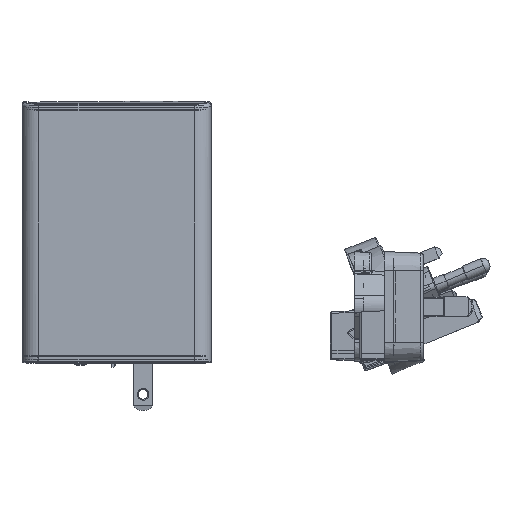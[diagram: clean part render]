
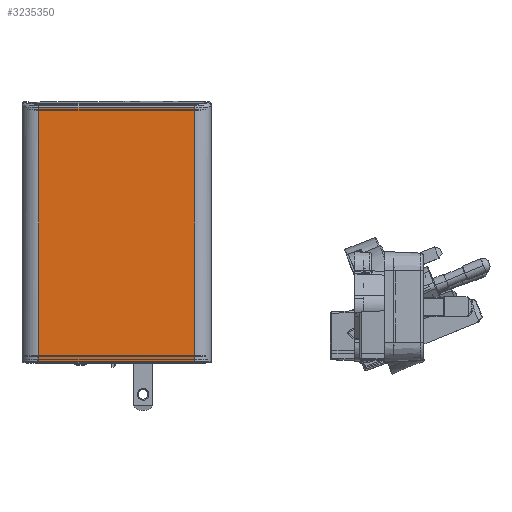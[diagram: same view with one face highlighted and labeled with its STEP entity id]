
A CAD part, top view. The second image highlights one B-rep face of the part: STEP entity #3235350.
In plain terms, the highlighted planar face has unit normal (0, 0, 1).
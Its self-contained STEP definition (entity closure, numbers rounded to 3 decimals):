
#3230690=CARTESIAN_POINT('',(26.285,153.683,
21.101));
#3230700=VERTEX_POINT('',#3230690);
#3234860=CARTESIAN_POINT('',(-24.715,153.683,
21.101));
#3234870=DIRECTION('',(1.,0.,0.));
#3234880=VECTOR('',#3234870,1.);
#3234890=LINE('',#3234860,#3234880);
#3234900=CARTESIAN_POINT('',(-24.715,153.683,
21.101));
#3234910=VERTEX_POINT('',#3234900);
#3234920=EDGE_CURVE('',#3234910,#3230700,#3234890,.T.);
#3235050=CARTESIAN_POINT('',(0.785,114.,21.101));
#3235060=DIRECTION('',(0.,0.,-1.));
#3235070=DIRECTION('',(0.,1.,0.));
#3235080=AXIS2_PLACEMENT_3D('',#3235050,#3235060,#3235070);
#3235090=PLANE('',#3235080);
#3235100=CARTESIAN_POINT('',(-24.715,70.55,21.101));
#3235110=DIRECTION('',(0.,1.,0.));
#3235120=VECTOR('',#3235110,1.);
#3235130=LINE('',#3235100,#3235120);
#3235140=CARTESIAN_POINT('',(-24.715,70.55,21.101));
#3235150=VERTEX_POINT('',#3235140);
#3235160=EDGE_CURVE('',#3235150,#3234910,#3235130,.T.);
#3235170=ORIENTED_EDGE('',*,*,#3235160,.F.);
#3235180=ORIENTED_EDGE('',*,*,#3234920,.F.);
#3235190=CARTESIAN_POINT('',(26.285,153.683,
21.101));
#3235200=DIRECTION('',(0.,-1.,0.));
#3235210=VECTOR('',#3235200,1.);
#3235220=LINE('',#3235190,#3235210);
#3235230=CARTESIAN_POINT('',(26.285,70.55,21.101));
#3235240=VERTEX_POINT('',#3235230);
#3235250=EDGE_CURVE('',#3230700,#3235240,#3235220,.T.);
#3235260=ORIENTED_EDGE('',*,*,#3235250,.F.);
#3235270=CARTESIAN_POINT('',(26.285,70.55,21.101));
#3235280=DIRECTION('',(-1.,0.,0.));
#3235290=VECTOR('',#3235280,1.);
#3235300=LINE('',#3235270,#3235290);
#3235310=EDGE_CURVE('',#3235240,#3235150,#3235300,.T.);
#3235320=ORIENTED_EDGE('',*,*,#3235310,.F.);
#3235330=EDGE_LOOP('',(#3235320,#3235260,#3235180,#3235170));
#3235340=FACE_OUTER_BOUND('',#3235330,.T.);
#3235350=ADVANCED_FACE('',(#3235340),#3235090,.F.);
